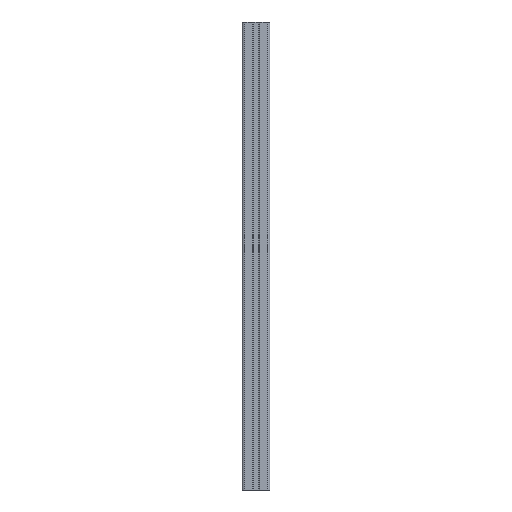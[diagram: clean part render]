
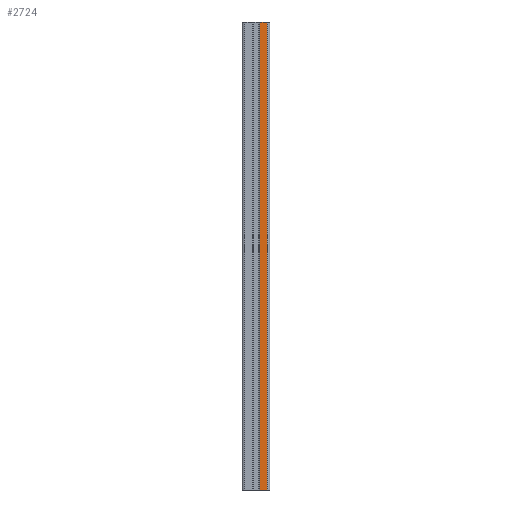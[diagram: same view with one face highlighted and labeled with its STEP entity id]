
A CAD part, front view. The second image highlights one B-rep face of the part: STEP entity #2724.
In plain terms, the highlighted planar face has unit normal (0, -1, 0).
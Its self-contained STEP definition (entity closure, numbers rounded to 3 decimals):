
#156 = DIRECTION ( 'NONE',  ( 0., 0., 1. ) ) ;
#205 = FACE_OUTER_BOUND ( 'NONE', #764, .T. ) ;
#264 = CARTESIAN_POINT ( 'NONE',  ( 11.833, -15., -250. ) ) ;
#310 = DIRECTION ( 'NONE',  ( 0., -1., 0. ) ) ;
#372 = VECTOR ( 'NONE', #156, 1000. ) ;
#764 = EDGE_LOOP ( 'NONE', ( #857, #2547, #1633, #2790 ) ) ;
#857 = ORIENTED_EDGE ( 'NONE', *, *, #1537, .F. ) ;
#1158 = VERTEX_POINT ( 'NONE', #1713 ) ;
#1171 = AXIS2_PLACEMENT_3D ( 'NONE', #2042, #310, #1797 ) ;
#1221 = CARTESIAN_POINT ( 'NONE',  ( -15., -15., 250. ) ) ;
#1229 = VERTEX_POINT ( 'NONE', #264 ) ;
#1310 = CARTESIAN_POINT ( 'NONE',  ( 11.833, -15., 250. ) ) ;
#1537 = EDGE_CURVE ( 'NONE', #1229, #1158, #1559, .T. ) ;
#1559 = LINE ( 'NONE', #2413, #2999 ) ;
#1617 = CARTESIAN_POINT ( 'NONE',  ( 11.833, -15., -250. ) ) ;
#1633 = ORIENTED_EDGE ( 'NONE', *, *, #3168, .F. ) ;
#1713 = CARTESIAN_POINT ( 'NONE',  ( 4.1, -15., -250. ) ) ;
#1744 = DIRECTION ( 'NONE',  ( 1., 0., 0. ) ) ;
#1797 = DIRECTION ( 'NONE',  ( 1., 0., 0. ) ) ;
#1975 = EDGE_CURVE ( 'NONE', #1229, #3806, #2012, .T. ) ;
#1980 = VECTOR ( 'NONE', #1744, 1000. ) ;
#2012 = LINE ( 'NONE', #1617, #372 ) ;
#2042 = CARTESIAN_POINT ( 'NONE',  ( -15., -15., -292.426 ) ) ;
#2087 = DIRECTION ( 'NONE',  ( 0., 0., 1. ) ) ;
#2127 = CARTESIAN_POINT ( 'NONE',  ( 4.1, -15., -250. ) ) ;
#2193 = EDGE_CURVE ( 'NONE', #1158, #3499, #3198, .T. ) ;
#2413 = CARTESIAN_POINT ( 'NONE',  ( -15., -15., -250. ) ) ;
#2547 = ORIENTED_EDGE ( 'NONE', *, *, #1975, .T. ) ;
#2724 = ADVANCED_FACE ( 'NONE', ( #205 ), #3205, .T. ) ;
#2790 = ORIENTED_EDGE ( 'NONE', *, *, #2193, .F. ) ;
#2999 = VECTOR ( 'NONE', #3585, 1000. ) ;
#3003 = VECTOR ( 'NONE', #2087, 1000. ) ;
#3168 = EDGE_CURVE ( 'NONE', #3499, #3806, #3525, .T. ) ;
#3198 = LINE ( 'NONE', #2127, #3003 ) ;
#3205 = PLANE ( 'NONE',  #1171 ) ;
#3499 = VERTEX_POINT ( 'NONE', #3688 ) ;
#3525 = LINE ( 'NONE', #1221, #1980 ) ;
#3585 = DIRECTION ( 'NONE',  ( -1., 0., 0. ) ) ;
#3688 = CARTESIAN_POINT ( 'NONE',  ( 4.1, -15., 250. ) ) ;
#3806 = VERTEX_POINT ( 'NONE', #1310 ) ;
